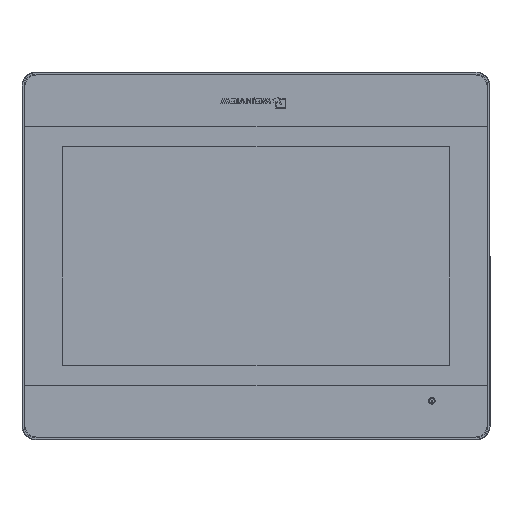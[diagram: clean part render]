
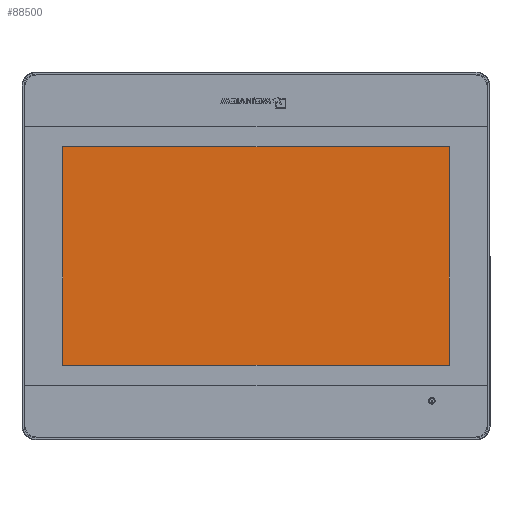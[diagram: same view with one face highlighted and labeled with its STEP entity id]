
A CAD part, top view. The second image highlights one B-rep face of the part: STEP entity #88500.
In plain terms, the highlighted planar face has unit normal (0, 0, 1).
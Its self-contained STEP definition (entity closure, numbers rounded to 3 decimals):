
#3867 = LINE ( 'NONE', #71030, #35319 ) ;
#17605 = LINE ( 'NONE', #131001, #120685 ) ;
#28487 = EDGE_CURVE ( 'NONE', #146491, #48676, #17605, .T. ) ;
#30901 = CARTESIAN_POINT ( 'NONE',  ( -111.87, -63.14, 0.18 ) ) ;
#32816 = VERTEX_POINT ( 'NONE', #210733 ) ;
#35319 = VECTOR ( 'NONE', #69978, 1000. ) ;
#38905 = EDGE_LOOP ( 'NONE', ( #176262, #43169, #194913, #147032 ) ) ;
#43169 = ORIENTED_EDGE ( 'NONE', *, *, #28487, .F. ) ;
#48676 = VERTEX_POINT ( 'NONE', #64311 ) ;
#52625 = CARTESIAN_POINT ( 'NONE',  ( -111.87, 63.14, 0.18 ) ) ;
#56804 = LINE ( 'NONE', #76525, #208716 ) ;
#64311 = CARTESIAN_POINT ( 'NONE',  ( 111.87, 63.14, 0.18 ) ) ;
#69547 = DIRECTION ( 'NONE',  ( 0., 0., 1. ) ) ;
#69978 = DIRECTION ( 'NONE',  ( 0., 1., 0. ) ) ;
#71030 = CARTESIAN_POINT ( 'NONE',  ( -111.87, -97.8, 0.18 ) ) ;
#76525 = CARTESIAN_POINT ( 'NONE',  ( 111.87, -97.8, 0.18 ) ) ;
#80606 = FACE_OUTER_BOUND ( 'NONE', #38905, .T. ) ;
#81674 = PLANE ( 'NONE',  #119883 ) ;
#87092 = CARTESIAN_POINT ( 'NONE',  ( 126.8, -97.8, 0.18 ) ) ;
#88500 = ADVANCED_FACE ( 'NONE', ( #80606 ), #81674, .T. ) ;
#88748 = VECTOR ( 'NONE', #140390, 1000. ) ;
#90791 = CARTESIAN_POINT ( 'NONE',  ( 126.8, -63.14, 0.18 ) ) ;
#90945 = EDGE_CURVE ( 'NONE', #32816, #166238, #107305, .T. ) ;
#92101 = EDGE_CURVE ( 'NONE', #48676, #32816, #56804, .T. ) ;
#94060 = DIRECTION ( 'NONE',  ( 0., -1., 0. ) ) ;
#107305 = LINE ( 'NONE', #90791, #88748 ) ;
#119883 = AXIS2_PLACEMENT_3D ( 'NONE', #87092, #69547, #154287 ) ;
#119916 = EDGE_CURVE ( 'NONE', #166238, #146491, #3867, .T. ) ;
#120685 = VECTOR ( 'NONE', #151900, 1000. ) ;
#131001 = CARTESIAN_POINT ( 'NONE',  ( 126.8, 63.14, 0.18 ) ) ;
#140390 = DIRECTION ( 'NONE',  ( -1., 0., 0. ) ) ;
#146491 = VERTEX_POINT ( 'NONE', #52625 ) ;
#147032 = ORIENTED_EDGE ( 'NONE', *, *, #90945, .F. ) ;
#151900 = DIRECTION ( 'NONE',  ( 1., 0., 0. ) ) ;
#154287 = DIRECTION ( 'NONE',  ( 1., 0., 0. ) ) ;
#166238 = VERTEX_POINT ( 'NONE', #30901 ) ;
#176262 = ORIENTED_EDGE ( 'NONE', *, *, #92101, .F. ) ;
#194913 = ORIENTED_EDGE ( 'NONE', *, *, #119916, .F. ) ;
#208716 = VECTOR ( 'NONE', #94060, 1000. ) ;
#210733 = CARTESIAN_POINT ( 'NONE',  ( 111.87, -63.14, 0.18 ) ) ;
